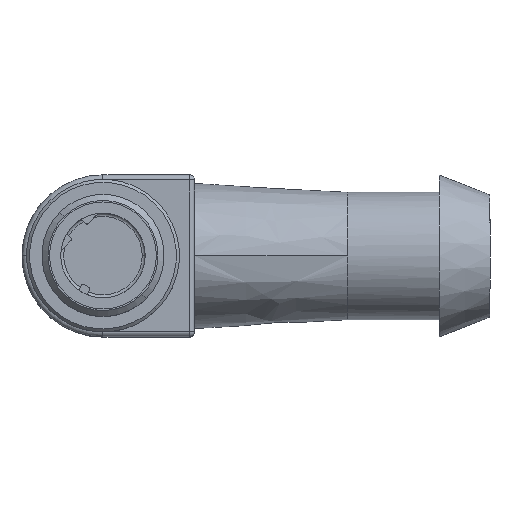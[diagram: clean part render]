
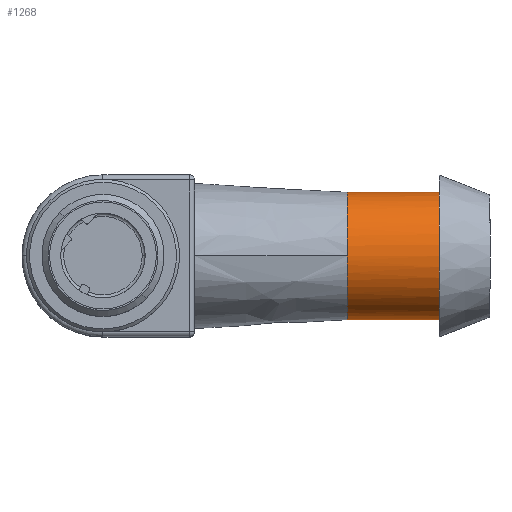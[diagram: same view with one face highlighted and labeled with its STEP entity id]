
A CAD part, top view. The second image highlights one B-rep face of the part: STEP entity #1268.
In plain terms, the highlighted cylindrical face has radius 6.25 mm (diameter 12.5 mm), a partial arc.
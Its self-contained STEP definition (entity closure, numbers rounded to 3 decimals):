
#7 = EDGE_CURVE ( 'NONE', #220, #4347, #2992, .T. ) ;
#149 = DIRECTION ( 'NONE',  ( 0., 1., 0. ) ) ;
#167 = DIRECTION ( 'NONE',  ( -1., 0., 0. ) ) ;
#175 = CARTESIAN_POINT ( 'NONE',  ( 8.875, 2.044, 6.002 ) ) ;
#220 = VERTEX_POINT ( 'NONE', #1392 ) ;
#268 = CARTESIAN_POINT ( 'NONE',  ( 8.875, 3.132, 5.424 ) ) ;
#335 = CARTESIAN_POINT ( 'NONE',  ( 8.875, -6.25, 0.818 ) ) ;
#616 = VERTEX_POINT ( 'NONE', #2271 ) ;
#876 = CARTESIAN_POINT ( 'NONE',  ( 8.875, 0.818, 6.25 ) ) ;
#912 = AXIS2_PLACEMENT_3D ( 'NONE', #1738, #4434, #2111 ) ;
#1085 = LINE ( 'NONE', #1440, #2882 ) ;
#1122 = CARTESIAN_POINT ( 'NONE',  ( 8.875, -5.424, 3.132 ) ) ;
#1157 = ORIENTED_EDGE ( 'NONE', *, *, #1301, .T. ) ;
#1161 = CARTESIAN_POINT ( 'NONE',  ( 13.375, 6.25, 0. ) ) ;
#1240 = ORIENTED_EDGE ( 'NONE', *, *, #4938, .T. ) ;
#1268 = ADVANCED_FACE ( 'NONE', ( #3957 ), #1790, .T. ) ;
#1301 = EDGE_CURVE ( 'NONE', #3078, #1545, #4867, .T. ) ;
#1336 = CARTESIAN_POINT ( 'NONE',  ( 17.875, -6.25, 0. ) ) ;
#1392 = CARTESIAN_POINT ( 'NONE',  ( 8.875, 0., 6.25 ) ) ;
#1402 = AXIS2_PLACEMENT_3D ( 'NONE', #4403, #167, #149 ) ;
#1440 = CARTESIAN_POINT ( 'NONE',  ( 13.375, -6.25, 0. ) ) ;
#1441 = CARTESIAN_POINT ( 'NONE',  ( 8.875, 6.249, 0. ) ) ;
#1499 = CARTESIAN_POINT ( 'NONE',  ( 8.875, -4.185, 4.763 ) ) ;
#1545 = VERTEX_POINT ( 'NONE', #3795 ) ;
#1738 = CARTESIAN_POINT ( 'NONE',  ( 17.875, 0., 0. ) ) ;
#1790 = CYLINDRICAL_SURFACE ( 'NONE', #1402, 6.25 ) ;
#1797 = ORIENTED_EDGE ( 'NONE', *, *, #4793, .F. ) ;
#1879 = CARTESIAN_POINT ( 'NONE',  ( 8.875, -1.636, 6.087 ) ) ;
#1901 = ORIENTED_EDGE ( 'NONE', *, *, #7, .F. ) ;
#2111 = DIRECTION ( 'NONE',  ( 0., 0., 1. ) ) ;
#2265 = CARTESIAN_POINT ( 'NONE',  ( 8.875, 0., 6.25 ) ) ;
#2271 = CARTESIAN_POINT ( 'NONE',  ( 8.875, -6.25, 0. ) ) ;
#2273 = CARTESIAN_POINT ( 'NONE',  ( 8.875, 0., 6.25 ) ) ;
#2363 = EDGE_LOOP ( 'NONE', ( #1797, #1157, #1240, #1901, #3730 ) ) ;
#2396 = CARTESIAN_POINT ( 'NONE',  ( 8.875, 6.249, 0. ) ) ;
#2500 = VECTOR ( 'NONE', #3841, 1000. ) ;
#2882 = VECTOR ( 'NONE', #3737, 1000. ) ;
#2905 = CARTESIAN_POINT ( 'NONE',  ( 8.875, 6.087, 1.636 ) ) ;
#2992 = B_SPLINE_CURVE_WITH_KNOTS ( 'NONE', 3,
 ( #2273, #876, #175, #268, #4206, #3021, #3461, #2905, #4728, #2396 ),
 .UNSPECIFIED., .F., .F.,
 ( 4, 1, 2, 1, 2, 4 ),
 ( 0., 0.125, 0.187, 0.25, 0.375, 0.5 ),
 .UNSPECIFIED. ) ;
#3021 = CARTESIAN_POINT ( 'NONE',  ( 8.875, 4.763, 4.185 ) ) ;
#3078 = VERTEX_POINT ( 'NONE', #1336 ) ;
#3407 = CARTESIAN_POINT ( 'NONE',  ( 8.875, -6.002, 2.044 ) ) ;
#3461 = CARTESIAN_POINT ( 'NONE',  ( 8.875, 5.461, 3.148 ) ) ;
#3730 = ORIENTED_EDGE ( 'NONE', *, *, #4883, .F. ) ;
#3737 = DIRECTION ( 'NONE',  ( -1., 0., 0. ) ) ;
#3795 = CARTESIAN_POINT ( 'NONE',  ( 17.875, 6.25, 0. ) ) ;
#3802 = CARTESIAN_POINT ( 'NONE',  ( 8.875, -4.969, 3.812 ) ) ;
#3841 = DIRECTION ( 'NONE',  ( -1., 0., 0. ) ) ;
#3957 = FACE_OUTER_BOUND ( 'NONE', #2363, .T. ) ;
#4150 = B_SPLINE_CURVE_WITH_KNOTS ( 'NONE', 3,
 ( #4959, #335, #3407, #1122, #3802, #1499, #4194, #1879, #4588, #2265 ),
 .UNSPECIFIED., .F., .F.,
 ( 4, 1, 2, 1, 2, 4 ),
 ( 0.5, 0.625, 0.687, 0.75, 0.875, 1. ),
 .UNSPECIFIED. ) ;
#4194 = CARTESIAN_POINT ( 'NONE',  ( 8.875, -3.148, 5.461 ) ) ;
#4206 = CARTESIAN_POINT ( 'NONE',  ( 8.875, 3.812, 4.969 ) ) ;
#4347 = VERTEX_POINT ( 'NONE', #1441 ) ;
#4403 = CARTESIAN_POINT ( 'NONE',  ( 13.375, 0., 0. ) ) ;
#4434 = DIRECTION ( 'NONE',  ( -1., 0., 0. ) ) ;
#4453 = LINE ( 'NONE', #1161, #2500 ) ;
#4588 = CARTESIAN_POINT ( 'NONE',  ( 8.875, -0.818, 6.25 ) ) ;
#4728 = CARTESIAN_POINT ( 'NONE',  ( 8.875, 6.247, 0.818 ) ) ;
#4793 = EDGE_CURVE ( 'NONE', #3078, #616, #1085, .T. ) ;
#4867 = CIRCLE ( 'NONE', #912, 6.25 ) ;
#4883 = EDGE_CURVE ( 'NONE', #616, #220, #4150, .T. ) ;
#4938 = EDGE_CURVE ( 'NONE', #1545, #4347, #4453, .T. ) ;
#4959 = CARTESIAN_POINT ( 'NONE',  ( 8.875, -6.25, 0. ) ) ;
